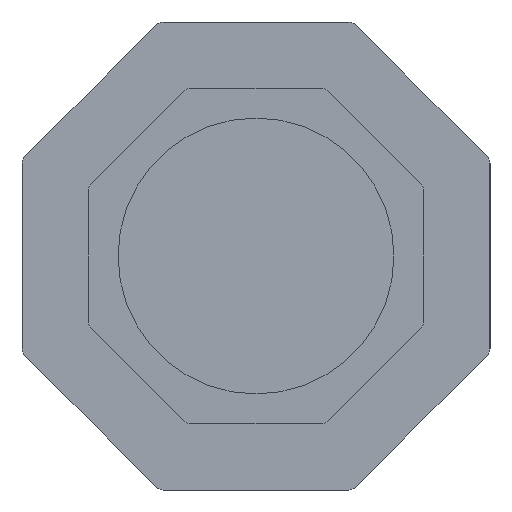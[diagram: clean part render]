
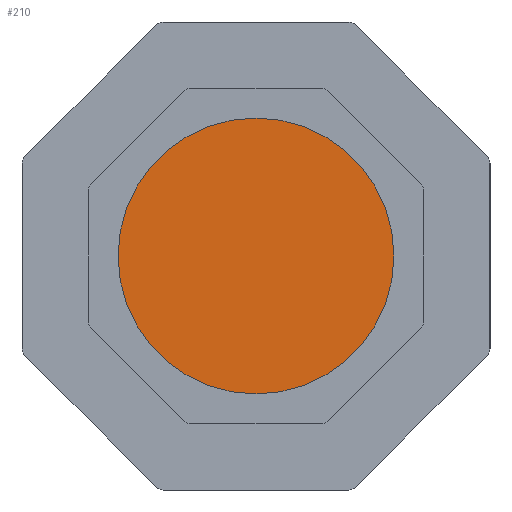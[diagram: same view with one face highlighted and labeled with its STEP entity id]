
A CAD part, left-side view. The second image highlights one B-rep face of the part: STEP entity #210.
In plain terms, the highlighted planar face has unit normal (-1, 0, 0).
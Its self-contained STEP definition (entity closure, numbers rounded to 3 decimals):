
#210=ADVANCED_FACE('',(#1168),#1170,.T.);
#1168=FACE_BOUND('',#1169,.T.);
#1169=EDGE_LOOP('',(#1915));
#1170=PLANE('',#1171);
#1171=AXIS2_PLACEMENT_3D('',#1172,#1173,#1174);
#1172=CARTESIAN_POINT('',(2239.192,1451.831,0.));
#1173=DIRECTION('',(-1.,0.,0.));
#1174=DIRECTION('',(0.,0.,1.));
#1915=ORIENTED_EDGE('',*,*,#2468,.T.);
#2468=EDGE_CURVE('',#2798,#2798,#2799,.T.);
#2798=VERTEX_POINT('',#3394);
#2799=CIRCLE('',#3395,28.);
#3394=CARTESIAN_POINT('',(2239.192,1423.831,0.));
#3395=AXIS2_PLACEMENT_3D('',#3396,#3397,#3398);
#3396=CARTESIAN_POINT('',(2239.192,1451.831,0.));
#3397=DIRECTION('',(-1.,0.,0.));
#3398=DIRECTION('',(0.,-1.,0.));
